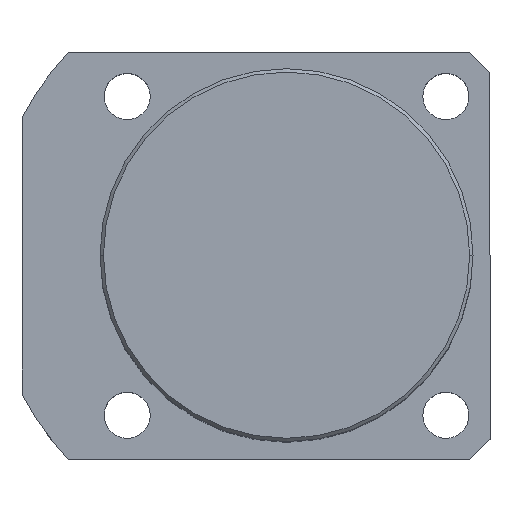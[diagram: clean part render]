
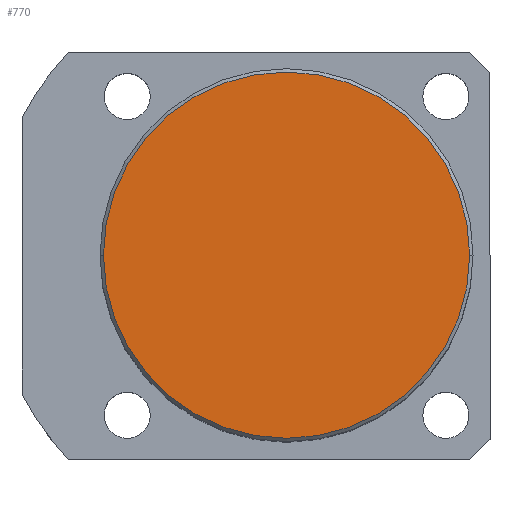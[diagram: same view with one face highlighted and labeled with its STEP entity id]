
A CAD part, top view. The second image highlights one B-rep face of the part: STEP entity #770.
In plain terms, the highlighted planar face has unit normal (0, 0, 1).
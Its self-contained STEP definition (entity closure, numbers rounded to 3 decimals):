
#99 = EDGE_CURVE ( 'NONE', #1550, #343, #1779, .T. ) ;
#265 = CARTESIAN_POINT ( 'NONE',  ( 0., 0., 70. ) ) ;
#343 = VERTEX_POINT ( 'NONE', #1665 ) ;
#370 = FACE_OUTER_BOUND ( 'NONE', #1235, .T. ) ;
#483 = CARTESIAN_POINT ( 'NONE',  ( 0., 0., 70. ) ) ;
#590 = CIRCLE ( 'NONE', #1487, 27. ) ;
#691 = DIRECTION ( 'NONE',  ( 0., 0., 1. ) ) ;
#752 = EDGE_CURVE ( 'NONE', #343, #1550, #590, .T. ) ;
#770 = ADVANCED_FACE ( 'NONE', ( #370 ), #1248, .T. ) ;
#857 = AXIS2_PLACEMENT_3D ( 'NONE', #483, #1588, #1357 ) ;
#882 = AXIS2_PLACEMENT_3D ( 'NONE', #975, #1116, #1108 ) ;
#975 = CARTESIAN_POINT ( 'NONE',  ( 0., 0., 70. ) ) ;
#1108 = DIRECTION ( 'NONE',  ( 1., 0., 0. ) ) ;
#1116 = DIRECTION ( 'NONE',  ( 0., 0., 1. ) ) ;
#1147 = CARTESIAN_POINT ( 'NONE',  ( -27., 0., 70. ) ) ;
#1194 = ORIENTED_EDGE ( 'NONE', *, *, #99, .T. ) ;
#1235 = EDGE_LOOP ( 'NONE', ( #1194, #1788 ) ) ;
#1248 = PLANE ( 'NONE',  #882 ) ;
#1357 = DIRECTION ( 'NONE',  ( 1., 0., 0. ) ) ;
#1487 = AXIS2_PLACEMENT_3D ( 'NONE', #265, #691, #1638 ) ;
#1550 = VERTEX_POINT ( 'NONE', #1147 ) ;
#1588 = DIRECTION ( 'NONE',  ( 0., 0., 1. ) ) ;
#1638 = DIRECTION ( 'NONE',  ( 1., 0., 0. ) ) ;
#1665 = CARTESIAN_POINT ( 'NONE',  ( 27., 0., 70. ) ) ;
#1779 = CIRCLE ( 'NONE', #857, 27. ) ;
#1788 = ORIENTED_EDGE ( 'NONE', *, *, #752, .T. ) ;
